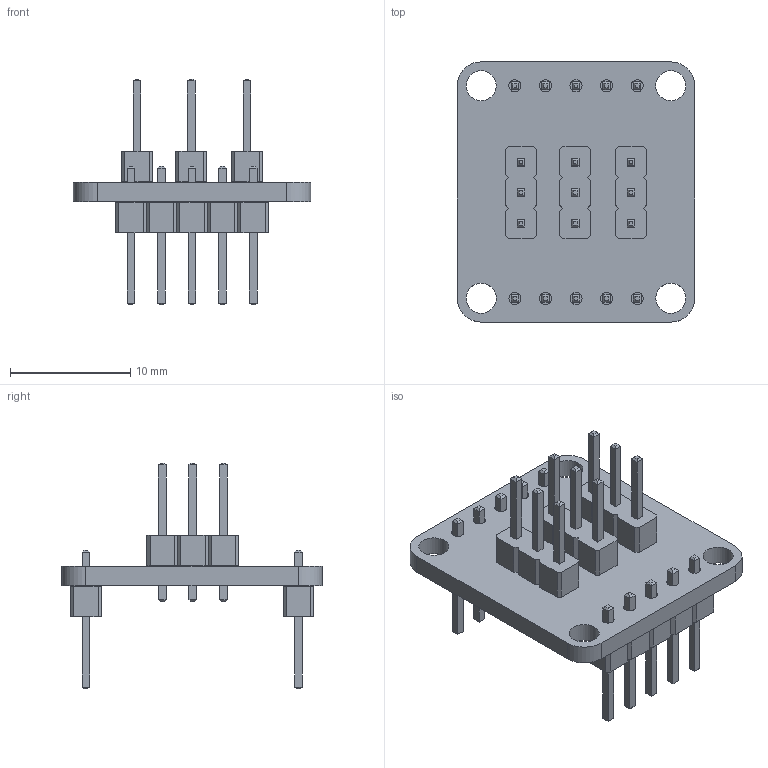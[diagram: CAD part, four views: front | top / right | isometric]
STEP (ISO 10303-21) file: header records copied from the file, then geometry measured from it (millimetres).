
FILE_DESCRIPTION(('KiCad electronic assembly'),'2;1');
FILE_NAME('STP_AXM0031.step','2025-01-28T19:00:26',('Pcbnew'),('Kicad'), 'Open CASCADE STEP processor 7.8','KiCad to STEP converter','Unknown' );
FILE_SCHEMA(('AUTOMOTIVE_DESIGN { 1 0 10303 214 1 1 1 1 }'));
Length unit declared in the file: millimetre
Products named in the file (6): STP_AXM0031 1; PinHeader_1x03_P2.54mm_Vertical; PinHeader_1x03_P254mm_Vertical; PinHeader_1x05_P2.54mm_Vertical; PinHeader_1x05_P254mm_Vertical; BlankElement_PCB
Assembly tree (8 placements, depth 3):
  STP_AXM0031 1
    PinHeader_1x03_P2.54mm_Vertical  x3
      PinHeader_1x03_P254mm_Vertical
    PinHeader_1x05_P2.54mm_Vertical  x2
      PinHeader_1x05_P254mm_Vertical
    BlankElement_PCB
Bounding box: 19.74 x 21.64 x 18.78 mm (x, y, z)
Volume: 996.5 mm3; surface area: 2035 mm2
Topology: 6 solids, 6 shells, 509 faces, 1225 edges, 766 vertices
Faces by surface type: plane 482, cylinder 27
Full cylindrical faces by diameter (mm): 1 x19, 2.5 x4
Entity records: 8290 total; most frequent: CARTESIAN_POINT 1169, ORIENTED_EDGE 1138, DIRECTION 1107, EDGE_CURVE 569, LINE 515, VECTOR 515, VERTEX_POINT 358, AXIS2_PLACEMENT_3D 296
